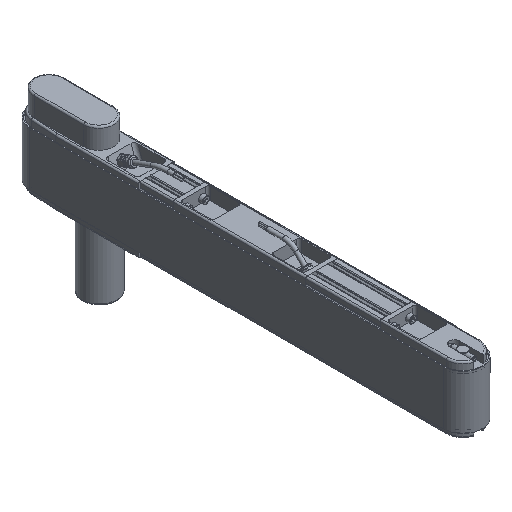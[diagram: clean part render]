
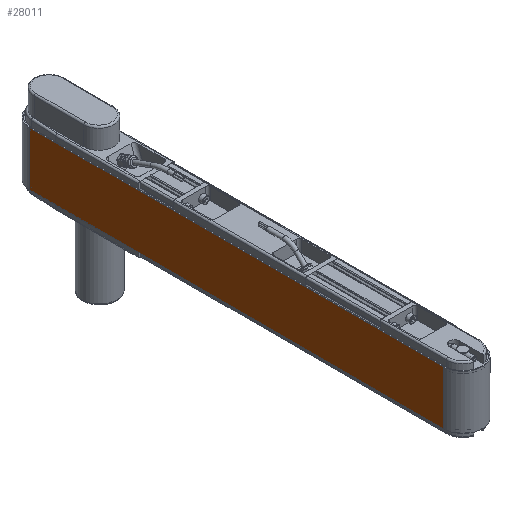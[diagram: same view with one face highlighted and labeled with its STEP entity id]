
A CAD part, isometric view. The second image highlights one B-rep face of the part: STEP entity #28011.
In plain terms, the highlighted planar face has unit normal (-1, 0, 0).
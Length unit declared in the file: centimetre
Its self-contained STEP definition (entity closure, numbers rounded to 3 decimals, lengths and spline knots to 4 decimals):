
#777=PLANE('',#29725);
#1805=FACE_OUTER_BOUND('',#3324,.T.);
#3324=EDGE_LOOP('',(#18419,#18420,#18421,#18422));
#5047=LINE('',#41437,#7241);
#5048=LINE('',#41442,#7242);
#5050=LINE('',#41446,#7244);
#5051=LINE('',#41447,#7245);
#7241=VECTOR('',#33189,1.);
#7242=VECTOR('',#33194,1.);
#7244=VECTOR('',#33198,1.);
#7245=VECTOR('',#33199,1.);
#11010=VERTEX_POINT('',#41431);
#11012=VERTEX_POINT('',#41435);
#11014=VERTEX_POINT('',#41440);
#11015=VERTEX_POINT('',#41445);
#13929=EDGE_CURVE('',#11010,#11012,#5047,.T.);
#13931=EDGE_CURVE('',#11014,#11012,#5048,.T.);
#13933=EDGE_CURVE('',#11014,#11015,#5050,.T.);
#13934=EDGE_CURVE('',#11015,#11010,#5051,.T.);
#18419=ORIENTED_EDGE('',*,*,#13933,.T.);
#18420=ORIENTED_EDGE('',*,*,#13934,.T.);
#18421=ORIENTED_EDGE('',*,*,#13929,.T.);
#18422=ORIENTED_EDGE('',*,*,#13931,.F.);
#28011=ADVANCED_FACE('',(#1805),#777,.T.);
#29725=AXIS2_PLACEMENT_3D('',#41444,#33196,#33197);
#33189=DIRECTION('',(0.,1.,0.));
#33194=DIRECTION('',(0.,0.,1.));
#33196=DIRECTION('center_axis',(-1.,0.,0.));
#33197=DIRECTION('ref_axis',(0.,0.,
1.));
#33198=DIRECTION('',(0.,-1.,0.));
#33199=DIRECTION('',(0.,0.,1.));
#41431=CARTESIAN_POINT('',(-2.32,-37.,3.25));
#41435=CARTESIAN_POINT('',(-2.32,13.,3.25));
#41437=CARTESIAN_POINT('',(-2.32,13.,3.25));
#41440=CARTESIAN_POINT('',(-2.32,13.,-3.25));
#41442=CARTESIAN_POINT('',(-2.32,13.,0.));
#41444=CARTESIAN_POINT('Origin',(-2.32,13.,0.));
#41445=CARTESIAN_POINT('',(-2.32,-37.,-3.25));
#41446=CARTESIAN_POINT('',(-2.32,13.,-3.25));
#41447=CARTESIAN_POINT('',(-2.32,-37.,0.));
